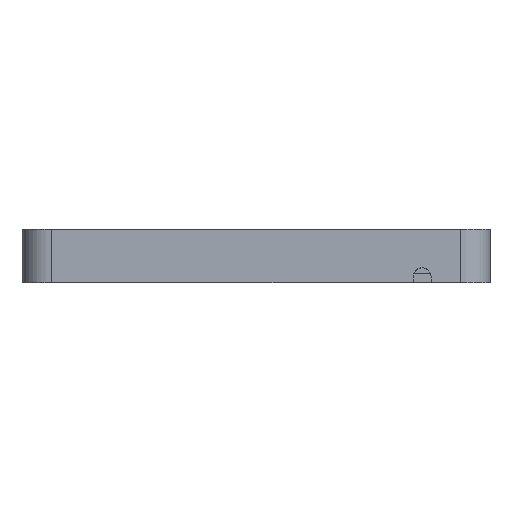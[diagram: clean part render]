
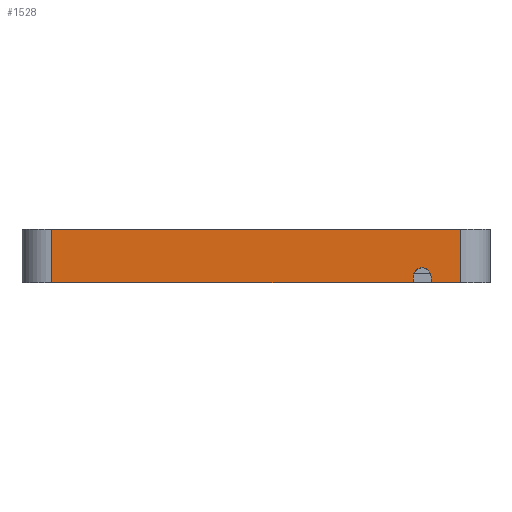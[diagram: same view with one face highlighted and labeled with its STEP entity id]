
A CAD part, left-side view. The second image highlights one B-rep face of the part: STEP entity #1528.
In plain terms, the highlighted planar face has unit normal (-1, 0, 0).
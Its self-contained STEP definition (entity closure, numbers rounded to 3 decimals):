
#540 = VERTEX_POINT('',#541);
#541 = CARTESIAN_POINT('',(-121.4,-69.35,0.));
#550 = EDGE_CURVE('',#551,#540,#553,.T.);
#551 = VERTEX_POINT('',#552);
#552 = CARTESIAN_POINT('',(-121.4,-59.35,0.));
#553 = LINE('',#554,#555);
#554 = CARTESIAN_POINT('',(-121.4,69.35,0.));
#555 = VECTOR('',#556,1.);
#556 = DIRECTION('',(0.,-1.,0.));
#666 = VERTEX_POINT('',#667);
#667 = CARTESIAN_POINT('',(-121.4,-53.35,0.));
#673 = EDGE_CURVE('',#674,#666,#676,.T.);
#674 = VERTEX_POINT('',#675);
#675 = CARTESIAN_POINT('',(-121.4,69.35,0.));
#676 = LINE('',#677,#678);
#677 = CARTESIAN_POINT('',(-121.4,69.35,0.));
#678 = VECTOR('',#679,1.);
#679 = DIRECTION('',(0.,-1.,0.));
#1199 = VERTEX_POINT('',#1200);
#1200 = CARTESIAN_POINT('',(-121.4,69.35,18.));
#1207 = EDGE_CURVE('',#1199,#1208,#1210,.T.);
#1208 = VERTEX_POINT('',#1209);
#1209 = CARTESIAN_POINT('',(-121.4,-69.35,18.));
#1210 = LINE('',#1211,#1212);
#1211 = CARTESIAN_POINT('',(-121.4,69.35,18.));
#1212 = VECTOR('',#1213,1.);
#1213 = DIRECTION('',(0.,-1.,0.));
#1416 = EDGE_CURVE('',#540,#1208,#1417,.T.);
#1417 = LINE('',#1418,#1419);
#1418 = CARTESIAN_POINT('',(-121.4,-69.35,0.));
#1419 = VECTOR('',#1420,1.);
#1420 = DIRECTION('',(0.,0.,1.));
#1516 = EDGE_CURVE('',#674,#1199,#1517,.T.);
#1517 = LINE('',#1518,#1519);
#1518 = CARTESIAN_POINT('',(-121.4,69.35,0.));
#1519 = VECTOR('',#1520,1.);
#1520 = DIRECTION('',(0.,0.,1.));
#1528 = ADVANCED_FACE('',(#1529),#1559,.T.);
#1529 = FACE_BOUND('',#1530,.T.);
#1530 = EDGE_LOOP('',(#1531,#1532,#1533,#1541,#1550,#1556,#1557,#1558));
#1531 = ORIENTED_EDGE('',*,*,#1516,.F.);
#1532 = ORIENTED_EDGE('',*,*,#673,.T.);
#1533 = ORIENTED_EDGE('',*,*,#1534,.F.);
#1534 = EDGE_CURVE('',#1535,#666,#1537,.T.);
#1535 = VERTEX_POINT('',#1536);
#1536 = CARTESIAN_POINT('',(-121.4,-53.35,2.));
#1537 = LINE('',#1538,#1539);
#1538 = CARTESIAN_POINT('',(-121.4,-53.35,2.));
#1539 = VECTOR('',#1540,1.);
#1540 = DIRECTION('',(0.,0.,-1.));
#1541 = ORIENTED_EDGE('',*,*,#1542,.F.);
#1542 = EDGE_CURVE('',#1543,#1535,#1545,.T.);
#1543 = VERTEX_POINT('',#1544);
#1544 = CARTESIAN_POINT('',(-121.4,-59.35,2.));
#1545 = CIRCLE('',#1546,3.);
#1546 = AXIS2_PLACEMENT_3D('',#1547,#1548,#1549);
#1547 = CARTESIAN_POINT('',(-121.4,-56.35,2.));
#1548 = DIRECTION('',(-1.,0.,0.));
#1549 = DIRECTION('',(0.,-1.,0.));
#1550 = ORIENTED_EDGE('',*,*,#1551,.F.);
#1551 = EDGE_CURVE('',#551,#1543,#1552,.T.);
#1552 = LINE('',#1553,#1554);
#1553 = CARTESIAN_POINT('',(-121.4,-59.35,0.));
#1554 = VECTOR('',#1555,1.);
#1555 = DIRECTION('',(0.,0.,1.));
#1556 = ORIENTED_EDGE('',*,*,#550,.T.);
#1557 = ORIENTED_EDGE('',*,*,#1416,.T.);
#1558 = ORIENTED_EDGE('',*,*,#1207,.F.);
#1559 = PLANE('',#1560);
#1560 = AXIS2_PLACEMENT_3D('',#1561,#1562,#1563);
#1561 = CARTESIAN_POINT('',(-121.4,0.,9.));
#1562 = DIRECTION('',(-1.,-0.,-0.));
#1563 = DIRECTION('',(0.,0.,-1.));
